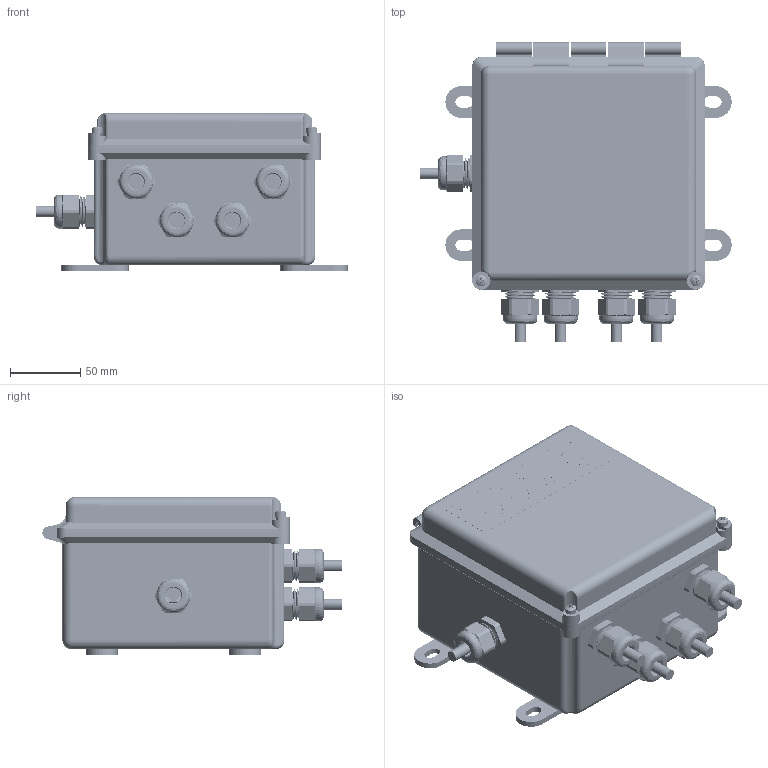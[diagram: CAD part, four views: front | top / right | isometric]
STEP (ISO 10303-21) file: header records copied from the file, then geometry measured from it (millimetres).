
FILE_DESCRIPTION (( 'STEP AP203' ), '1' );
FILE_NAME ('HI6020JB-FG2.STEP', '2021-06-10T19:59:20', ( '' ), ( '' ), 'SwSTEP 2.0', 'SolidWorks 2020', '' );
FILE_SCHEMA (( 'CONFIG_CONTROL_DESIGN' ));
Length unit declared in the file: inch
Products named in the file (23): a664chscfg_02; 6007-0097-0; 2140-0136-09-0; McMaster_90272A827_ZINC-PLTD STL PAN HEAD PHILLIPS MACHINE SCREW_90272A827; 0530-0797-01-0; 4617-0010-0; 0508-0838; McMaster_91737A210_18-8 SS FILLISTER HEAD PHILLIPS MACHINE SCREW_91737A210; 0530-0799-01-0; 0529-0024-01-0; a664chscfg_05; 0534-0573-01-0; 2140-0137-07-0; 2814-0095-0; a664chscfg_04; 2140-0137-09-0; a664chscfg_06; 0535-0573-XX-0; HI6020JB-FG2; a664chscfg_03; 2817-0182_90400A219; a664chscfg_01; 2140-0136-07-0
Assembly tree (52 placements, depth 3):
  HI6020JB-FG2
    0535-0573-XX-0
      0534-0573-01-0
      4617-0010-0  x4
      2140-0136-07-0  x4
      2140-0137-07-0  x4
      2140-0136-09-0  x2
      2140-0137-09-0  x2
    0508-0838
      a664chscfg_01
      a664chscfg_02
      a664chscfg_03
      a664chscfg_04
      a664chscfg_05
      a664chscfg_06
      McMaster_90272A827_ZINC-PLTD STL PAN HEAD PHILLIPS MACHINE SCREW_90272A827  x4
      McMaster_91737A210_18-8 SS FILLISTER HEAD PHILLIPS MACHINE SCREW_91737A210  x2
    2817-0182_90400A219  x4
    6007-0097-0  x5
    2814-0095-0  x5
    0529-0024-01-0  x5
    0530-0797-01-0
    0530-0799-01-0
Bounding box: 220.99 x 212.4 x 112.3 mm (x, y, z)
Volume: 574237.4 mm3; surface area: 405876.8 mm2
Topology: 527 solids, 531 shells, 15894 faces, 41112 edges, 26904 vertices
Faces by surface type: plane 9566, cylinder 3154, bspline 2507, cone 401, torus 176, sphere 90
Entity records: 398912 total; most frequent: CARTESIAN_POINT 168305, ORIENTED_EDGE 51454, DIRECTION 37954, EDGE_CURVE 25727, LINE 17406, VECTOR 17406, VERTEX_POINT 16975, EDGE_LOOP 10702
